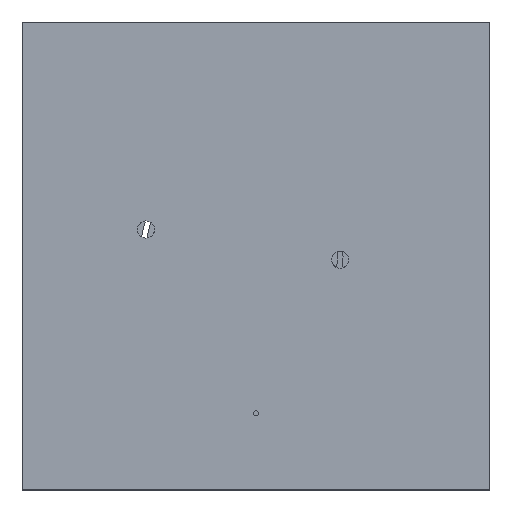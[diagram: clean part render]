
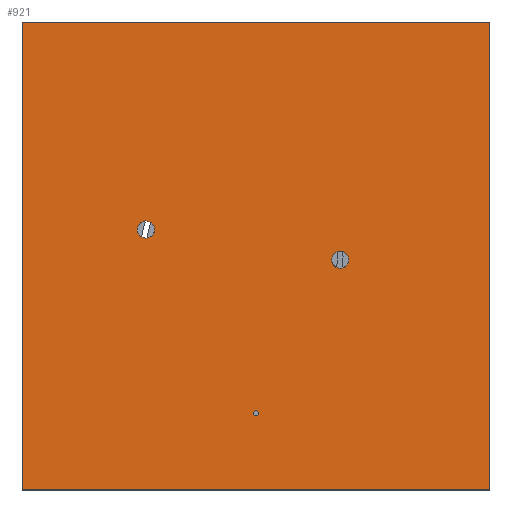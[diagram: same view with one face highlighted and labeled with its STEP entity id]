
A CAD part, top view. The second image highlights one B-rep face of the part: STEP entity #921.
In plain terms, the highlighted planar face has unit normal (0, 0, 1).
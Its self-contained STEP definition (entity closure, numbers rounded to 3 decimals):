
#921 = ADVANCED_FACE( '', ( #1925, #1926, #1927, #1928 ), #1929, .T. );
#1925 = FACE_BOUND( '', #2939, .T. );
#1926 = FACE_BOUND( '', #2940, .T. );
#1927 = FACE_BOUND( '', #2941, .T. );
#1928 = FACE_OUTER_BOUND( '', #2942, .T. );
#1929 = PLANE( '', #2943 );
#2939 = EDGE_LOOP( '', ( #5131 ) );
#2940 = EDGE_LOOP( '', ( #5132 ) );
#2941 = EDGE_LOOP( '', ( #5133 ) );
#2942 = EDGE_LOOP( '', ( #5134, #5135, #5136, #5137 ) );
#2943 = AXIS2_PLACEMENT_3D( '', #5138, #5139, #5140 );
#5131 = ORIENTED_EDGE( '', *, *, #5283, .F. );
#5132 = ORIENTED_EDGE( '', *, *, #5903, .F. );
#5133 = ORIENTED_EDGE( '', *, *, #5819, .F. );
#5134 = ORIENTED_EDGE( '', *, *, #5351, .T. );
#5135 = ORIENTED_EDGE( '', *, *, #6071, .T. );
#5136 = ORIENTED_EDGE( '', *, *, #6073, .T. );
#5137 = ORIENTED_EDGE( '', *, *, #5498, .T. );
#5138 = CARTESIAN_POINT( '', ( 0., 0., 30. ) );
#5139 = DIRECTION( '', ( 0., 0., 1. ) );
#5140 = DIRECTION( '', ( 1., 0., 0. ) );
#5283 = EDGE_CURVE( '', #6171, #6171, #6172, .T. );
#5351 = EDGE_CURVE( '', #6294, #6292, #6295, .T. );
#5498 = EDGE_CURVE( '', #6553, #6294, #6554, .T. );
#5819 = EDGE_CURVE( '', #7041, #7041, #7042, .T. );
#5903 = EDGE_CURVE( '', #7148, #7148, #7149, .T. );
#6071 = EDGE_CURVE( '', #6292, #7344, #7346, .T. );
#6073 = EDGE_CURVE( '', #7344, #6553, #7348, .T. );
#6171 = VERTEX_POINT( '', #7461 );
#6172 = CIRCLE( '', #7462, 7.5 );
#6292 = VERTEX_POINT( '', #7626 );
#6294 = VERTEX_POINT( '', #7629 );
#6295 = LINE( '', #7630, #7631 );
#6553 = VERTEX_POINT( '', #7978 );
#6554 = LINE( '', #7979, #7980 );
#7041 = VERTEX_POINT( '', #8659 );
#7042 = CIRCLE( '', #8660, 25. );
#7148 = VERTEX_POINT( '', #8800 );
#7149 = CIRCLE( '', #8801, 25. );
#7344 = VERTEX_POINT( '', #9049 );
#7346 = LINE( '', #9052, #9053 );
#7348 = LINE( '', #9055, #9056 );
#7461 = CARTESIAN_POINT( '', ( 688.5, 223., 30. ) );
#7462 = AXIS2_PLACEMENT_3D( '', #9149, #9150, #9151 );
#7626 = CARTESIAN_POINT( '', ( 0., 1362., 30. ) );
#7629 = CARTESIAN_POINT( '', ( 1362., 1362., 30. ) );
#7630 = CARTESIAN_POINT( '', ( 1362., 1362., 30. ) );
#7631 = VECTOR( '', #9224, 1000. );
#7978 = CARTESIAN_POINT( '', ( 1362., 0., 30. ) );
#7979 = CARTESIAN_POINT( '', ( 1362., 0., 30. ) );
#7980 = VECTOR( '', #9416, 1000. );
#8659 = CARTESIAN_POINT( '', ( 951., 670.5, 30. ) );
#8660 = AXIS2_PLACEMENT_3D( '', #9771, #9772, #9773 );
#8800 = CARTESIAN_POINT( '', ( 385.75, 758., 30. ) );
#8801 = AXIS2_PLACEMENT_3D( '', #9847, #9848, #9849 );
#9049 = CARTESIAN_POINT( '', ( 0., 0., 30. ) );
#9052 = CARTESIAN_POINT( '', ( 0., 1362., 30. ) );
#9053 = VECTOR( '', #9976, 1000. );
#9055 = CARTESIAN_POINT( '', ( 0., 0., 30. ) );
#9056 = VECTOR( '', #9977, 1000. );
#9149 = CARTESIAN_POINT( '', ( 681., 223., 30. ) );
#9150 = DIRECTION( '', ( 0., 0., 1. ) );
#9151 = DIRECTION( '', ( 1., 0., 0. ) );
#9224 = DIRECTION( '', ( -1., 0., 0. ) );
#9416 = DIRECTION( '', ( 0., 1., 0. ) );
#9771 = CARTESIAN_POINT( '', ( 926., 670.5, 30. ) );
#9772 = DIRECTION( '', ( 0., 0., 1. ) );
#9773 = DIRECTION( '', ( 1., 0., 0. ) );
#9847 = CARTESIAN_POINT( '', ( 360.75, 758., 30. ) );
#9848 = DIRECTION( '', ( 0., 0., 1. ) );
#9849 = DIRECTION( '', ( 1., 0., 0. ) );
#9976 = DIRECTION( '', ( 0., -1., 0. ) );
#9977 = DIRECTION( '', ( 1., 0., 0. ) );
